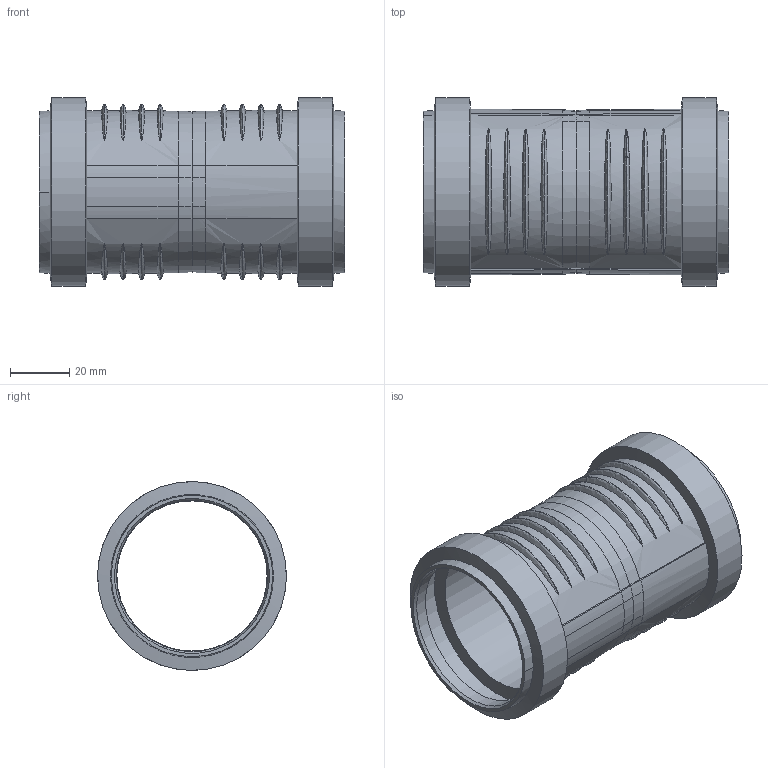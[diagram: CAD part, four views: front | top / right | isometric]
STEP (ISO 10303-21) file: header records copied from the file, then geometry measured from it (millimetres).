
FILE_DESCRIPTION(/* description */ (''),/* implementation_level */ '2;1');
FILE_NAME(/* name */ '390217.stp',/* time_stamp */ '2023-09-26T13:20:52+02:00',/* author */ ('JANAN'),/* organization */ (''),/* preprocessor_version */ 'ST-DEVELOPER v19.2',/* originating_system */ 'Autodesk Inventor 2023',/* authorisation */ '');
FILE_SCHEMA (('AUTOMOTIVE_DESIGN { 1 0 10303 214 3 1 1 }'));
Length unit declared in the file: millimetre
Products named in the file (1): tmpA40B.tmp
Bounding box: 103 x 63.68 x 63.68 mm (x, y, z)
Volume: 42954 mm3; surface area: 43061 mm2
Topology: 1 solids, 1 shells, 98 faces, 232 edges, 153 vertices
Faces by surface type: bspline 75, cone 10, cylinder 7, plane 6
Full cylindrical faces by diameter (mm): 50.7 x1, 51 x2, 60.1 x2, 63.7 x2
Entity records: 11838 total; most frequent: CARTESIAN_POINT 9720, ORIENTED_EDGE 478, DIRECTION 327, EDGE_CURVE 239, VERTEX_POINT 163, AXIS2_PLACEMENT_3D 155, CIRCLE 125, EDGE_LOOP 120
